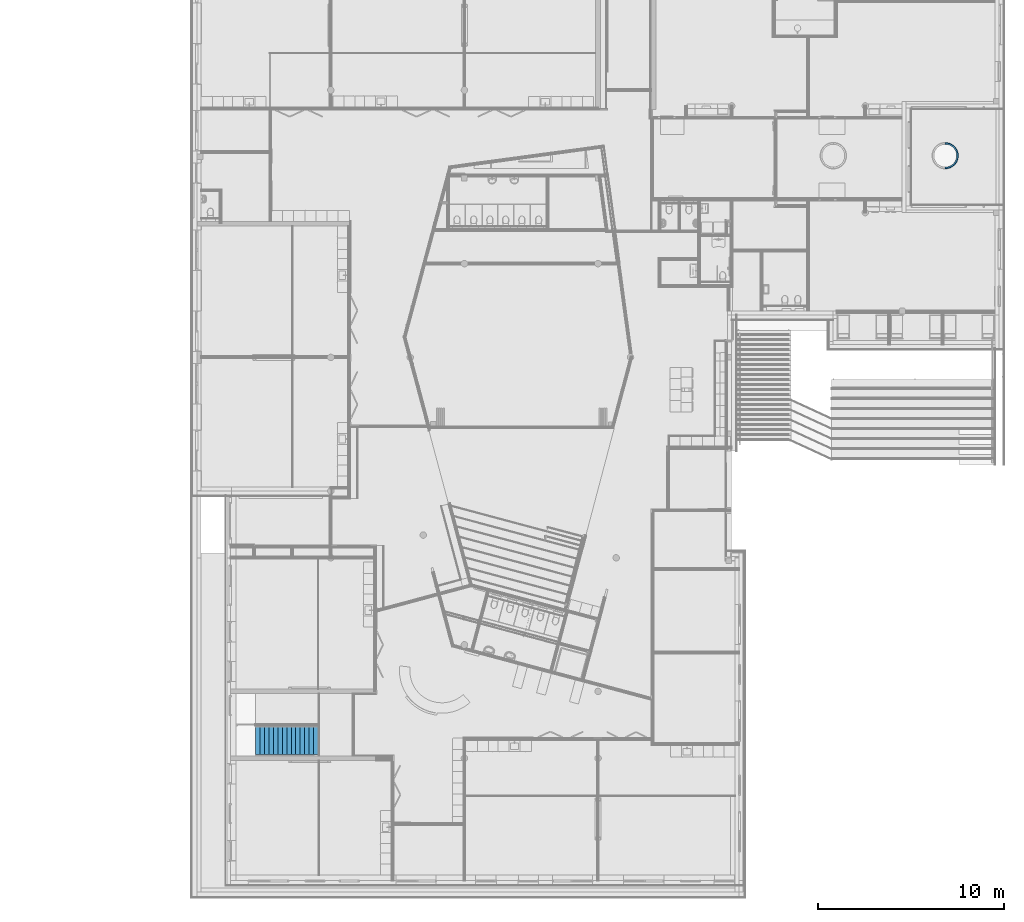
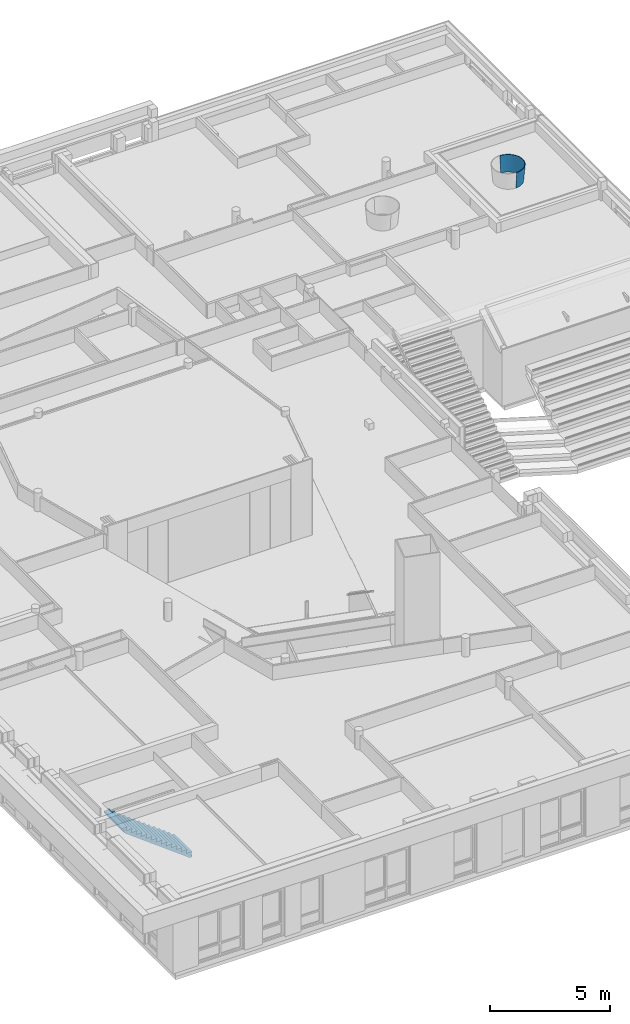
# One storey, part 21 of 167: 1 stair flight, 1 wall, 1 element without a shape of its own.
"""IFC2X3 building model written with IfcOpenShell, lengths in millimetres."""

from ifc_helpers import new_model, entity, si_unit, converted_unit, derived_unit, money_unit, direction, frame, origin_with_axes, place, context, subcontext, project, spatial, faceted_brep, material, type_object, element, aggregate, save


model = new_model("IFC2X3")

# Units and contexts
model_context = context("Model", 3, precision=0.01, world=origin_with_axes(), true_north=direction((0.0, 1.0)))
plan_context = context("Plan", 3, precision=0.01, world=origin_with_axes(), true_north=direction((0.0, 1.0)))
body_context = subcontext(model_context, "Body", "Model", "MODEL_VIEW")
ifc_project = project(units=[si_unit("LENGTHUNIT", "METRE", prefix="MILLI"), si_unit("AREAUNIT", "SQUARE_METRE"), si_unit("VOLUMEUNIT", "CUBIC_METRE"), converted_unit("PLANEANGLEUNIT", "DEGREE", entity("IfcPlaneAngleMeasure", 0.0174532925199), si_unit("PLANEANGLEUNIT", "RADIAN"), dimensions=[0, 0, 0, 0, 0, 0, 0]), si_unit("SOLIDANGLEUNIT", "STERADIAN"), money_unit("EUR"), converted_unit("TIMEUNIT", "Year", entity("IfcTimeMeasure", 31556926.0), si_unit("TIMEUNIT", "SECOND"), dimensions=[0, 0, 1, 0, 0, 0, 0]), si_unit("MASSUNIT", "GRAM", prefix="KILO"), si_unit("THERMODYNAMICTEMPERATUREUNIT", "DEGREE_CELSIUS"), si_unit("LUMINOUSINTENSITYUNIT", "LUMEN"), si_unit("ENERGYUNIT", "JOULE", prefix="MEGA"), derived_unit("THERMALCONDUCTANCEUNIT", [(si_unit("POWERUNIT", "WATT"), 1), (si_unit("LENGTHUNIT", "METRE"), -1), (si_unit("THERMODYNAMICTEMPERATUREUNIT", "KELVIN"), -1)]), derived_unit("SPECIFICHEATCAPACITYUNIT", [(si_unit("ENERGYUNIT", "JOULE"), 1), (si_unit("MASSUNIT", "GRAM", prefix="KILO"), -1), (si_unit("THERMODYNAMICTEMPERATUREUNIT", "KELVIN"), -1)]), derived_unit("MASSDENSITYUNIT", [(si_unit("MASSUNIT", "GRAM", prefix="KILO"), 1), (si_unit("VOLUMEUNIT", "CUBIC_METRE"), -1)])], contexts=[model_context, plan_context])

# Site, building, storey
site_placement = place(None, origin_with_axes())
site = spatial("IfcSite", under=ifc_project, at=site_placement, Name="Site", CompositionType="ELEMENT")
building_placement = place(site_placement, origin_with_axes())
building = spatial("IfcBuilding", under=site, at=building_placement, Name="Naam gebouw", CompositionType="ELEMENT")
storey_placement = place(building_placement, origin_with_axes())
storey = spatial("IfcBuildingStorey", under=building, at=storey_placement, Name="Begane grond", CompositionType="ELEMENT", Elevation=0.0)

# Wall
ifc_material_1 = material(Name="Hout - Spaanplaat")
wall_type = type_object("IfcWallType", Name="Hout - Spaanplaat 25", PredefinedType="NOTDEFINED")
wall_placement = place(storey_placement, frame((40308.2112045, 39027.9312523, 2800.0), z_axis=(0.0, 0.0, 1.0), x_axis=(1.0, 0.0, 0.0)))
element("IfcWall", 1, at=wall_placement, inside=storey, type_object=wall_type, material=ifc_material_1, Name="21_Wand_Wand-x", context=body_context, shape_type="Brep", body=[
    faceted_brep([(77.8296770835, 30.0417221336, 0.0), (38.676266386, 25.0954960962, 0.0), (39.4677234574, 25.0954959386, 1.13381600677), (39.4677234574, 25.0954959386, 0.0)], [[[0, 1, 2]], [[0, 3, 1]], [[3, 2, 1]], [[2, 3, 0]]]),
    faceted_brep([(154.407079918, 44.8008148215, 0.0), (116.185318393, 34.9871344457, 0.0), (117.755111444, 35.1895368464, 2.22140931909), (117.755111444, 35.1895368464, 0.0)], [[[0, 1, 2]], [[0, 3, 1]], [[3, 2, 1]], [[2, 3, 0]]]),
    faceted_brep([(228.500276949, 69.1353743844, 0.0), (191.812613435, 54.6097008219, 0.0), (194.108963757, 55.2118747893, 3.26277458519), (194.108963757, 55.2118747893, 0.0)], [[[0, 1, 2]], [[0, 3, 1]], [[3, 2, 1]], [[2, 3, 0]]]),
    faceted_brep([(298.917160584, 102.653965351, 0.0), (264.341792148, 83.6459957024, 0.0), (267.275552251, 84.8337435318, 4.25790495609), (267.275552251, 84.8337435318, 0.0)], [[[0, 1, 2]], [[0, 3, 1]], [[3, 2, 1]], [[2, 3, 0]]]),
    faceted_brep([(364.524759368, 144.817418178, 0.0), (332.606515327, 121.627456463, 0.0), (336.053483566, 123.568752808, 5.20679388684), (336.053483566, 123.568752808, 0.0)], [[[0, 1, 2]], [[0, 3, 1]], [[3, 2, 1]], [[2, 3, 0]]]),
    faceted_brep([(424.267449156, 194.947498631, 0.0), (395.509210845, 167.9417153, 0.0), (399.313425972, 170.780874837, 6.1094351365), (399.313425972, 170.780874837, 0.0)], [[[0, 1, 2]], [[0, 3, 1]], [[3, 2, 1]], [[2, 3, 0]]]),
    faceted_brep([(477.183929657, 252.23781331, 0.0), (452.038713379, 221.842468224, 0.0), (456.016652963, 225.69488788, 6.96582276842), (456.016652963, 225.69488788, 0.0)], [[[0, 1, 2]], [[0, 3, 1]], [[3, 2, 1]], [[2, 3, 0]]]),
    faceted_brep([(522.422685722, 315.766776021, 0.0), (501.28651229, 282.461495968, 0.0), (505.232099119, 287.409105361, 7.77595115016), (505.232099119, 287.409105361, 0.0)], [[[0, 1, 2]], [[0, 3, 1]], [[3, 2, 1]], [[2, 3, 0]]]),
    faceted_brep([(559.255683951, 384.512426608, 0.0), (542.461346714, 348.822643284, 0.0), (546.151648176, 354.910181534, 8.53981495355), (546.151648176, 354.910181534, 0.0)], [[[0, 1, 2]], [[0, 3, 1]], [[3, 2, 1]], [[2, 3, 0]]]),
    faceted_brep([(587.090084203, 457.368864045, 0.0), (574.901913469, 419.85753163, 0.0), (578.103402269, 427.089750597, 9.25740915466), (578.103402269, 427.089750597, 0.0)], [[[0, 1, 2]], [[0, 3, 1]], [[3, 2, 1]], [[2, 3, 0]]]),
    faceted_brep([(605.477777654, 533.164029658, 0.0), (598.087483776, 494.422752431, 0.0), (600.56271448, 502.762626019, 9.92872903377), (600.56271448, 502.762626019, 0.0)], [[[0, 1, 2]], [[0, 3, 1]], [[3, 2, 1]], [[2, 3, 0]]]),
    faceted_brep([(709.536925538, 550.201787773, 845.0), (636.916636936, 559.375863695, 10.0), (641.978831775, 639.837146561, 10.0), (715.176304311, 639.837146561, 845.0), (692.707725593, 461.980032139, 845.0), (621.809886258, 480.183503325, 10.0), (621.809886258, 799.490789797, 10.0), (636.916636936, 720.298429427, 10.0), (596.896822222, 403.508976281, 10.0), (562.570338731, 330.561485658, 10.0), (519.371784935, 262.49145696, 10.0), (467.982427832, 200.372395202, 10.0), (409.212708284, 145.183955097, 10.0), (343.989459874, 97.7964913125, 10.0), (273.341292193, 58.9573324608, 10.0), (198.382369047, 29.2789952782, 10.0), (120.294837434, 9.22952487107, 10.0), (40.310184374, -0.874886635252, 10.0), (0.0, -0.874886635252, 10.0), (0.0, 24.22060961, 9.9999999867), (38.7313095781, 24.22060961, 9.9999999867), (115.583112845, 33.9292501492, 9.9999999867), (190.612101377, 53.1934201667, 9.9999999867), (262.635023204, 81.7093121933, 9.9999999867), (330.516033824, 119.027213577, 9.9999999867), (393.18460915, 164.558598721, 9.9999999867), (449.652428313, 217.585410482, 9.9999999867), (499.028960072, 277.271384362, 9.9999999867), (540.535507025, 342.675236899, 9.9999999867), (573.517486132, 412.765510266, 9.9999999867), (597.454751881, 486.436838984, 9.9999999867), (611.969799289, 562.527382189, 9.9999999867), (613.081333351, 580.194710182, 9.9999999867), (613.160803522, 580.686261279, 10.0), (613.211270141, 582.259996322, 9.9999999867), (616.83371739, 639.837146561, 9.9999999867), (615.65729046, 658.535917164, 9.9999999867), (615.690809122, 659.58115244, 10.0), (615.405379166, 662.53993252, 9.9999999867), (611.969799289, 717.146910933, 9.9999999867), (608.262908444, 736.57911326, 9.9999999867), (608.111188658, 738.151847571, 10.0), (607.208187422, 742.108154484, 9.9999999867), (597.454751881, 793.237454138, 9.9999999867), (591.013597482, 813.061288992, 9.9999999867), (590.546399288, 815.108218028, 10.0), (588.856311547, 819.700732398, 9.9999999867), (573.517486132, 866.908782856, 9.9999999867), (564.183869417, 886.743728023, 9.9999999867), (563.284854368, 889.186642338, 10.0), (560.728820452, 894.086080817, 9.9999999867), (540.535507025, 936.999056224, 9.9999999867), (528.203033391, 956.431925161, 9.9999999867), (526.774187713, 959.170754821, 10.0), (523.346460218, 964.084659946, 9.9999999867), (499.028960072, 1002.40290876, 9.9999999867), (483.648410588, 1020.99479932, 9.9999999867), (481.613903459, 1023.91141829, 10.0), (477.366901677, 1028.58783924, 9.9999999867), (449.652428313, 1062.08888264, 9.9999999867), (431.236177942, 1079.38289286, 9.9999999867), (428.545532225, 1082.34559283, 10.0), (423.576700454, 1086.57562098, 9.9999999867), (393.18460915, 1115.1156944, 9.9999999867), (371.80998903, 1130.64526494, 9.9999999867), (368.440455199, 1133.51379091, 10.0), (362.88047077, 1137.13293971, 9.9999999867), (330.516033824, 1160.64707954, 9.9999999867), (306.327556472, 1173.9448075, 9.9999999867), (302.285596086, 1176.57583215, 10.0), (296.287679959, 1179.46427632, 9.9999999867), (262.635023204, 1197.96498093, 9.9999999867), (235.845413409, 1208.57173779, 9.9999999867), (231.167215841, 1210.824639, 10.0), (224.89742588, 1212.90635269, 9.9999999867), (190.612101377, 1226.48087296, 9.9999999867), (161.50210157, 1233.95505056, 9.9999999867), (156.253076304, 1235.69784702, 10.0), (149.881540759, 1236.93870346, 9.9999999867), (115.583112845, 1245.74504297, 9.9999999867), (84.5000595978, 1249.67174577, 9.9999999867), (78.7732655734, 1250.78703881, 10.0), (73.7622765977, 1251.02824322, 9.9999999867), (38.7313095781, 1255.45368351, 9.9999999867), (0.0, 1255.45368351, 9.9999999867), (0.0, 1280.54917976, 10.0), (40.310184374, 1280.54917976, 10.0), (120.294837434, 1270.44476825, 10.0), (198.382369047, 1250.39529784, 10.0), (273.341292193, 1220.71696066, 10.0), (343.989459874, 1181.87780181, 10.0), (409.212708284, 1134.49033803, 10.0), (467.982427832, 1079.30189792, 10.0), (519.371784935, 1017.18283616, 10.0), (562.570338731, 949.112807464, 10.0), (596.896822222, 876.165316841, 10.0), (709.536925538, 729.472505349, 845.0), (684.590088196, 553.353306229, 845.0), (690.031190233, 639.837146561, 845.0), (664.954111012, 376.563189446, 845.0), (668.352591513, 468.233367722, 845.0), (692.707725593, 817.694260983, 845.0), (626.713772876, 295.298334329, 845.0), (578.589784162, 219.467062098, 845.0), (521.341088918, 150.265277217, 845.0), (455.870533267, 88.7843331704, 845.0), (383.210626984, 35.9938211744, 845.0), (304.507260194, -7.27372086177, 845.0), (221.001632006, -40.3359379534, 845.0), (134.010676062, -62.6714191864, 845.0), (44.9062917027, -73.9279206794, 845.0), (0.0, -73.9279206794, 845.0), (0.0, -48.8324247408, 845.0), (43.3274169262, -48.8324247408, 845.0), (129.298951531, -37.9716942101, 845.0), (213.231364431, -16.4215133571, 845.0), (293.800991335, 15.4782585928, 845.0), (369.737201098, 57.2245431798, 845.0), (439.84243433, 108.158976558, 845.0), (503.011089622, 167.478292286, 845.0), (558.246959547, 234.24698932, 845.0), (604.67894144, 307.412085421, 845.0), (641.574775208, 385.819723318, 845.0), (611.646258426, 571.318264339, 0.0), (614.122597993, 610.67855463, 0.0), (613.160803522, 580.686261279, 0.0), (615.361327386, 649.306698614, 0.0), (684.590088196, 726.320986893, 845.0), (612.885089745, 688.665368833, 0.0), (615.690809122, 659.58115244, 0.0), (609.17413834, 727.133262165, 0.0), (668.352591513, 811.4409254, 845.0), (601.784756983, 765.86975579, 0.0), (608.111188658, 738.151847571, 0.0), (593.185418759, 803.545918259, 0.0), (641.574775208, 893.854569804, 845.0), (580.999756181, 841.049531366, 0.0), (590.546399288, 815.108218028, 0.0), (567.653536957, 877.315520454, 0.0), (604.67894144, 972.262207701, 845.0), (550.864038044, 912.995021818, 0.0), (563.284854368, 889.186642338, 0.0), (532.990328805, 947.255576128, 0.0), (558.246959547, 1045.4273038, 845.0), (511.861984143, 980.548520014, 0.0), (526.774187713, 959.170754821, 0.0), (489.754457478, 1012.24132194, 0.0), (503.011089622, 1112.19600084, 845.0), (464.620624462, 1042.62290703, 0.0), (481.613903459, 1023.91141829, 0.0), (438.642413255, 1071.22780468, 0.0), (439.84243433, 1171.51531656, 845.0), (409.899560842, 1098.21913969, 0.0), (428.545532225, 1082.34559283, 0.0), (380.477298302, 1123.26667698, 0.0), (369.737201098, 1222.44974994, 845.0), (348.578758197, 1146.44232295, 0.0), (368.440455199, 1133.51379091, 0.0), (316.195576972, 1167.52143798, 0.0), (293.800991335, 1264.19603453, 845.0), (281.644399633, 1186.51610846, 0.0), (302.285596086, 1176.57583215, 0.0), (246.832004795, 1203.28087423, 0.0), (213.231364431, 1296.09580648, 845.0), (210.173032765, 1217.79518803, 0.0), (231.167215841, 1210.824639, 0.0), (173.502978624, 1229.97048485, 0.0), (129.298951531, 1317.64598733, 845.0), (135.314261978, 1239.77568074, 0.0), (156.253076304, 1235.69784702, 0.0), (97.388575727, 1247.16170748, 0.0), (43.3274169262, 1328.50671786, 845.0), (62.4847259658, 1251.57108913, 0.0), (78.7732655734, 1250.78703881, 0.0), (0.0, 1328.50671786, 845.0), (0.0, 1353.6022138, 845.0), (44.9062917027, 1353.6022138, 845.0), (134.010676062, 1342.34571231, 845.0), (221.001632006, 1320.01023108, 845.0), (304.507260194, 1286.94801398, 845.0), (383.210626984, 1243.68047195, 845.0), (455.870533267, 1190.88995995, 845.0), (521.341088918, 1129.40901591, 845.0), (578.589784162, 1060.20723102, 845.0), (626.713772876, 984.375958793, 845.0), (664.954111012, 903.111103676, 845.0)], [[[0, 1, 2, 3]], [[4, 5, 1, 0]], [[6, 7, 2, 1, 5, 8, 9, 10, 11, 12, 13, 14, 15, 16, 17, 18, 19, 20, 21, 22, 23, 24, 25, 26, 27, 28, 29, 30, 31, 32, 33, 34, 35, 36, 37, 38, 39, 40, 41, 42, 43, 44, 45, 46, 47, 48, 49, 50, 51, 52, 53, 54, 55, 56, 57, 58, 59, 60, 61, 62, 63, 64, 65, 66, 67, 68, 69, 70, 71, 72, 73, 74, 75, 76, 77, 78, 79, 80, 81, 82, 83, 84, 85, 86, 87, 88, 89, 90, 91, 92, 93, 94, 95]], [[3, 2, 7, 96]], [[97, 0, 3, 98]], [[99, 8, 5, 4]], [[100, 4, 0, 97]], [[96, 7, 6, 101]], [[102, 9, 8, 99]], [[103, 10, 9, 102]], [[104, 11, 10, 103]], [[105, 12, 11, 104]], [[106, 13, 12, 105]], [[107, 14, 13, 106]], [[108, 15, 14, 107]], [[109, 16, 15, 108]], [[110, 17, 16, 109]], [[111, 18, 17, 110]], [[112, 19, 18, 111]], [[113, 20, 19, 112]], [[114, 21, 20, 113]], [[115, 22, 21, 114]], [[116, 23, 22, 115]], [[117, 24, 23, 116]], [[118, 25, 24, 117]], [[119, 26, 25, 118]], [[120, 27, 26, 119]], [[121, 28, 27, 120]], [[122, 29, 28, 121]], [[100, 30, 29, 122]], [[97, 31, 30, 100]], [[123, 32, 31, 97, 98, 35, 34, 124]], [[32, 123, 125, 33]], [[33, 125, 124, 34]], [[126, 36, 35, 98, 127, 39, 38, 128]], [[36, 126, 129, 37]], [[37, 129, 128, 38]], [[130, 40, 39, 127, 131, 43, 42, 132]], [[41, 40, 130, 133]], [[41, 133, 132, 42]], [[134, 44, 43, 131, 135, 47, 46, 136]], [[45, 44, 134, 137]], [[45, 137, 136, 46]], [[138, 48, 47, 135, 139, 51, 50, 140]], [[49, 48, 138, 141]], [[49, 141, 140, 50]], [[142, 52, 51, 139, 143, 55, 54, 144]], [[53, 52, 142, 145]], [[53, 145, 144, 54]], [[146, 56, 55, 143, 147, 59, 58, 148]], [[57, 56, 146, 149]], [[57, 149, 148, 58]], [[150, 60, 59, 147, 151, 63, 62, 152]], [[61, 60, 150, 153]], [[61, 153, 152, 62]], [[154, 64, 63, 151, 155, 67, 66, 156]], [[65, 64, 154, 157]], [[65, 157, 156, 66]], [[158, 68, 67, 155, 159, 71, 70, 160]], [[69, 68, 158, 161]], [[69, 161, 160, 70]], [[162, 72, 71, 159, 163, 75, 74, 164]], [[73, 72, 162, 165]], [[73, 165, 164, 74]], [[166, 76, 75, 163, 167, 79, 78, 168]], [[77, 76, 166, 169]], [[77, 169, 168, 78]], [[170, 80, 79, 167, 171, 83, 82, 172]], [[81, 80, 170, 173]], [[81, 173, 172, 82]], [[174, 84, 83, 171]], [[175, 85, 84, 174]], [[176, 86, 85, 175]], [[177, 87, 86, 176]], [[178, 88, 87, 177]], [[179, 89, 88, 178]], [[180, 90, 89, 179]], [[181, 91, 90, 180]], [[182, 92, 91, 181]], [[183, 93, 92, 182]], [[184, 94, 93, 183]], [[185, 95, 94, 184]], [[101, 6, 95, 185]], [[98, 3, 96, 127]], [[122, 99, 4, 100]], [[127, 96, 101, 131]], [[121, 102, 99, 122]], [[120, 103, 102, 121]], [[119, 104, 103, 120]], [[118, 105, 104, 119]], [[117, 106, 105, 118]], [[116, 107, 106, 117]], [[115, 108, 107, 116]], [[114, 109, 108, 115]], [[113, 110, 109, 114]], [[112, 111, 110, 113]], [[124, 125, 123]], [[128, 129, 126]], [[132, 133, 130]], [[131, 101, 185, 135]], [[136, 137, 134]], [[135, 185, 184, 139]], [[140, 141, 138]], [[139, 184, 183, 143]], [[144, 145, 142]], [[143, 183, 182, 147]], [[148, 149, 146]], [[147, 182, 181, 151]], [[152, 153, 150]], [[151, 181, 180, 155]], [[156, 157, 154]], [[155, 180, 179, 159]], [[160, 161, 158]], [[159, 179, 178, 163]], [[164, 165, 162]], [[163, 178, 177, 167]], [[168, 169, 166]], [[167, 177, 176, 171]], [[172, 173, 170]], [[171, 176, 175, 174]]]),
])

# Stair, stair flight
stair_placement = place(storey_placement, frame((6510.55541843, 7393.0, 0.0), z_axis=(0.0, 0.0, 1.0), x_axis=(1.0, 0.0, 0.0)))
stair = element("IfcStair", 2, at=stair_placement, inside=storey, Name="24_Trap_Trap-x", ShapeType="NOTDEFINED")
ifc_material_2 = material(Name="Beton C")
stair_flight_type = type_object("IfcStairFlightType", Name="IfcStairFlight", PredefinedType="NOTDEFINED")
stair_flight_placement = place(stair_placement, origin_with_axes())
stair_flight = element("IfcStairFlight", 3, at=stair_flight_placement, type_object=stair_flight_type, material=ifc_material_2, Name="24_Trapsegment_Trapsegment-x", context=body_context, shape_type="Brep", body=[
    faceted_brep([(-3260.0, 1480.0, 2420.0), (-3360.0, 1480.0, 2420.0), (-3360.0, 1480.0, 2520.0), (-3120.0, 1480.0, 2520.0), (-3168.23085464, 1480.0, 2340.0), (-2880.0, 1480.0, 2340.0), (-2928.23085464, 1480.0, 2160.0), (-2640.0, 1480.0, 2160.0), (-2688.23085464, 1480.0, 1980.0), (-2400.0, 1480.0, 1980.0), (-2448.23085464, 1480.0, 1800.0), (-2160.0, 1480.0, 1800.0), (-2208.23085464, 1480.0, 1620.0), (-1920.0, 1480.0, 1620.0), (-1968.23085464, 1480.0, 1440.0), (-1680.0, 1480.0, 1440.0), (-1728.23085464, 1480.0, 1260.0), (-1440.0, 1480.0, 1260.0), (-1488.23085464, 1480.0, 1080.0), (-1200.0, 1480.0, 1080.0), (-1248.23085464, 1480.0, 900.0), (-960.0, 1480.0, 900.0), (-1008.23085464, 1480.0, 720.0), (-720.0, 1480.0, 720.0), (-768.230854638, 1480.0, 540.0), (-480.0, 1480.0, 540.0), (-528.230854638, 1480.0, 360.0), (-240.0, 1480.0, 360.0), (-288.230854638, 1480.0, 180.0), (0.0, 1480.0, 180.0), (-48.2308546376, 1480.0, 0.0), (0.0, 1480.0, 0.0), (0.0, 1480.0, -100.0), (-114.897521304, 1480.0, -100.0), (-160.0, 1480.0, -66.1731409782), (-240.0, 1480.0, -6.1731409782), (-320.0, 1480.0, 53.8268590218), (-400.0, 1480.0, 113.826859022), (-480.0, 1480.0, 173.826859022), (-560.0, 1480.0, 233.826859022), (-640.0, 1480.0, 293.826859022), (-720.0, 1480.0, 353.826859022), (-800.0, 1480.0, 413.826859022), (-880.0, 1480.0, 473.826859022), (-960.0, 1480.0, 533.826859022), (-1040.0, 1480.0, 593.826859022), (-1120.0, 1480.0, 653.826859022), (-1200.0, 1480.0, 713.826859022), (-1280.0, 1480.0, 773.826859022), (-1360.0, 1480.0, 833.826859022), (-1440.0, 1480.0, 893.826859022), (-1520.0, 1480.0, 953.826859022), (-1600.0, 1480.0, 1013.82685902), (-1680.0, 1480.0, 1073.82685902), (-1760.0, 1480.0, 1133.82685902), (-1840.0, 1480.0, 1193.82685902), (-1920.0, 1480.0, 1253.82685902), (-2000.0, 1480.0, 1313.82685902), (-2080.0, 1480.0, 1373.82685902), (-2160.0, 1480.0, 1433.82685902), (-2240.0, 1480.0, 1493.82685902), (-2320.0, 1480.0, 1553.82685902), (-2400.0, 1480.0, 1613.82685902), (-2480.0, 1480.0, 1673.82685902), (-2560.0, 1480.0, 1733.82685902), (-2640.0, 1480.0, 1793.82685902), (-2720.0, 1480.0, 1853.82685902), (-2800.0, 1480.0, 1913.82685902), (-2880.0, 1480.0, 1973.82685902), (-2960.0, 1480.0, 2033.82685902), (-3040.0, 1480.0, 2093.82685902), (-3120.0, 1480.0, 2153.82685902), (-3200.0, 1480.0, 2213.82685902), (-3260.0, 1480.0, 2258.82685902), (-3260.0, 0.0, 2420.0), (-3360.0, 0.0, 2420.0), (-3360.0, 0.0, 2520.0), (-3120.0, 0.0, 2520.0), (-3168.23085464, 0.0, 2340.0), (-2880.0, 0.0, 2340.0), (-2928.23085464, 0.0, 2160.0), (-2640.0, 0.0, 2160.0), (-2688.23085464, 0.0, 1980.0), (-2400.0, 0.0, 1980.0), (-2448.23085464, 0.0, 1800.0), (-2160.0, 0.0, 1800.0), (-2208.23085464, 0.0, 1620.0), (-1920.0, 0.0, 1620.0), (-1968.23085464, 0.0, 1440.0), (-1680.0, 0.0, 1440.0), (-1728.23085464, 0.0, 1260.0), (-1440.0, 0.0, 1260.0), (-1488.23085464, 0.0, 1080.0), (-1200.0, 0.0, 1080.0), (-1248.23085464, 0.0, 900.0), (-960.0, 0.0, 900.0), (-1008.23085464, 0.0, 720.0), (-720.0, 0.0, 720.0), (-768.230854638, 0.0, 540.0), (-480.0, 0.0, 540.0), (-528.230854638, 0.0, 360.0), (-240.0, 0.0, 360.0), (-288.230854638, 0.0, 180.0), (0.0, 0.0, 180.0), (-48.2308546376, 0.0, 0.0), (0.0, 0.0, 0.0), (0.0, 0.0, -100.0), (-114.897521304, 0.0, -100.0), (-160.0, 0.0, -66.1731409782), (-240.0, 0.0, -6.1731409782), (-320.0, 0.0, 53.8268590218), (-400.0, 0.0, 113.826859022), (-480.0, 0.0, 173.826859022), (-560.0, 0.0, 233.826859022), (-640.0, 0.0, 293.826859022), (-720.0, 0.0, 353.826859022), (-800.0, 0.0, 413.826859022), (-880.0, 0.0, 473.826859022), (-960.0, 0.0, 533.826859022), (-1040.0, 0.0, 593.826859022), (-1120.0, 0.0, 653.826859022), (-1200.0, 0.0, 713.826859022), (-1280.0, 0.0, 773.826859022), (-1360.0, 0.0, 833.826859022), (-1440.0, 0.0, 893.826859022), (-1520.0, 0.0, 953.826859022), (-1600.0, 0.0, 1013.82685902), (-1680.0, 0.0, 1073.82685902), (-1760.0, 0.0, 1133.82685902), (-1840.0, 0.0, 1193.82685902), (-1920.0, 0.0, 1253.82685902), (-2000.0, 0.0, 1313.82685902), (-2080.0, 0.0, 1373.82685902), (-2160.0, 0.0, 1433.82685902), (-2240.0, 0.0, 1493.82685902), (-2320.0, 0.0, 1553.82685902), (-2400.0, 0.0, 1613.82685902), (-2480.0, 0.0, 1673.82685902), (-2560.0, 0.0, 1733.82685902), (-2640.0, 0.0, 1793.82685902), (-2720.0, 0.0, 1853.82685902), (-2800.0, 0.0, 1913.82685902), (-2880.0, 0.0, 1973.82685902), (-2960.0, 0.0, 2033.82685902), (-3040.0, 0.0, 2093.82685902), (-3120.0, 0.0, 2153.82685902), (-3200.0, 0.0, 2213.82685902), (-3260.0, 0.0, 2258.82685902)], [[[0, 1, 2, 3, 4, 5, 6, 7, 8, 9, 10, 11, 12, 13, 14, 15, 16, 17, 18, 19, 20, 21, 22, 23, 24, 25, 26, 27, 28, 29, 30, 31, 32, 33, 34, 35, 36, 37, 38, 39, 40, 41, 42, 43, 44, 45, 46, 47, 48, 49, 50, 51, 52, 53, 54, 55, 56, 57, 58, 59, 60, 61, 62, 63, 64, 65, 66, 67, 68, 69, 70, 71, 72, 73]], [[1, 0, 74, 75]], [[1, 75, 76, 2]], [[2, 76, 77, 3]], [[77, 78, 4, 3]], [[79, 5, 4, 78]], [[79, 80, 6, 5]], [[81, 7, 6, 80]], [[81, 82, 8, 7]], [[83, 9, 8, 82]], [[83, 84, 10, 9]], [[85, 11, 10, 84]], [[85, 86, 12, 11]], [[87, 13, 12, 86]], [[87, 88, 14, 13]], [[89, 15, 14, 88]], [[89, 90, 16, 15]], [[91, 17, 16, 90]], [[91, 92, 18, 17]], [[93, 19, 18, 92]], [[93, 94, 20, 19]], [[95, 21, 20, 94]], [[95, 96, 22, 21]], [[97, 23, 22, 96]], [[97, 98, 24, 23]], [[99, 25, 24, 98]], [[99, 100, 26, 25]], [[101, 27, 26, 100]], [[101, 102, 28, 27]], [[103, 29, 28, 102]], [[103, 104, 30, 29]], [[30, 104, 105, 31]], [[106, 32, 31, 105]], [[33, 32, 106, 107]], [[108, 34, 33, 107]], [[109, 35, 34, 108]], [[110, 36, 35, 109]], [[111, 37, 36, 110]], [[112, 38, 37, 111]], [[113, 39, 38, 112]], [[114, 40, 39, 113]], [[115, 41, 40, 114]], [[116, 42, 41, 115]], [[117, 43, 42, 116]], [[118, 44, 43, 117]], [[119, 45, 44, 118]], [[120, 46, 45, 119]], [[121, 47, 46, 120]], [[122, 48, 47, 121]], [[123, 49, 48, 122]], [[124, 50, 49, 123]], [[125, 51, 50, 124]], [[126, 52, 51, 125]], [[127, 53, 52, 126]], [[128, 54, 53, 127]], [[129, 55, 54, 128]], [[130, 56, 55, 129]], [[131, 57, 56, 130]], [[132, 58, 57, 131]], [[133, 59, 58, 132]], [[134, 60, 59, 133]], [[135, 61, 60, 134]], [[136, 62, 61, 135]], [[137, 63, 62, 136]], [[138, 64, 63, 137]], [[139, 65, 64, 138]], [[140, 66, 65, 139]], [[141, 67, 66, 140]], [[142, 68, 67, 141]], [[143, 69, 68, 142]], [[144, 70, 69, 143]], [[145, 71, 70, 144]], [[146, 72, 71, 145]], [[147, 73, 72, 146]], [[0, 73, 147, 74]], [[74, 147, 146, 145, 144, 143, 142, 141, 140, 139, 138, 137, 136, 135, 134, 133, 132, 131, 130, 129, 128, 127, 126, 125, 124, 123, 122, 121, 120, 119, 118, 117, 116, 115, 114, 113, 112, 111, 110, 109, 108, 107, 106, 105, 104, 103, 102, 101, 100, 99, 98, 97, 96, 95, 94, 93, 92, 91, 90, 89, 88, 87, 86, 85, 84, 83, 82, 81, 80, 79, 78, 77, 76, 75]]]),
])
aggregate(stair, [stair_flight])

save(model, "model.ifc")
